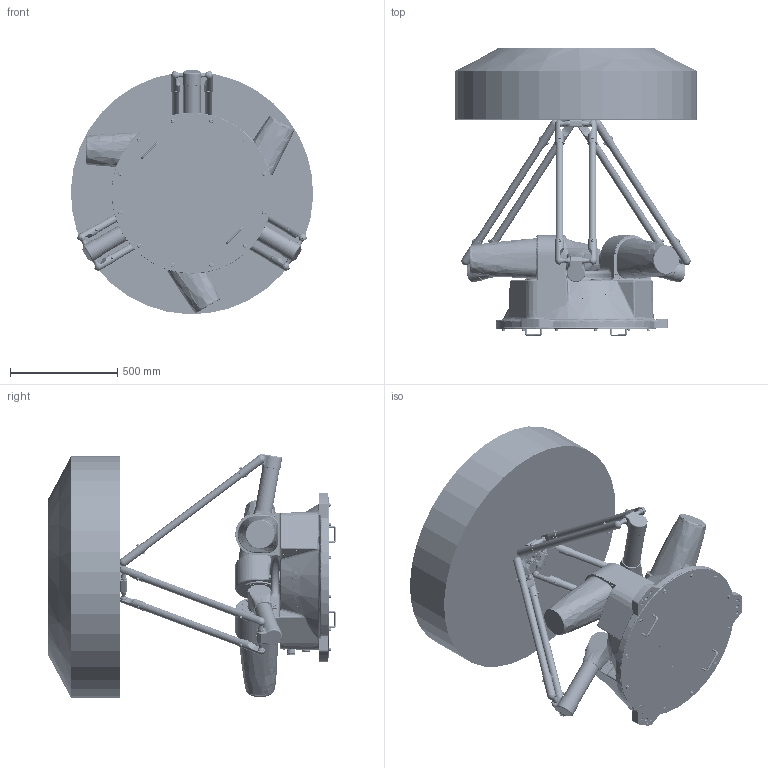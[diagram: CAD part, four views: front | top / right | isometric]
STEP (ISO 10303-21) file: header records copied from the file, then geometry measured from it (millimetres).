
FILE_DESCRIPTION (( 'STEP AP203' ), '1' );
FILE_NAME ('AP25X-1130-1543-T0-V2.0.0.STEP', '2024-10-12T08:00:12', ( '' ), ( '' ), 'SwSTEP 2.0', 'SolidWorks 2017', '' );
FILE_SCHEMA (( 'CONFIG_CONTROL_DESIGN' ));
Products named in the file (6): AP25X-1600-1543-T4-V1.0.0; AP25X-1130-1543-T0-V2.0.0; AP15X-2200-1543-T1-V1.0.1; AP25X-1130-1543-T2-V1.0.0; AP25X-1130-1543-T3-V1.0.0; AP25X-1130-1543-T9-V1.0.0
Assembly tree (12 placements, depth 2):
  AP25X-1130-1543-T0-V2.0.0
    AP15X-2200-1543-T1-V1.0.1
    AP25X-1130-1543-T2-V1.0.0  x3
    AP25X-1130-1543-T3-V1.0.0  x6
    AP25X-1130-1543-T9-V1.0.0
    AP25X-1600-1543-T4-V1.0.0
Bounding box: 1129.18 x 1346 x 1139.55 mm (x, y, z)
Volume: 301271011.7 mm3; surface area: 8088263.2 mm2
Topology: 2 solids, 324 shells, 5935 faces, 16119 edges, 10215 vertices
Faces by surface type: bspline 2169, cylinder 1534, plane 1184, cone 737, torus 237, sphere 74
Entity records: 269242 total; most frequent: CARTESIAN_POINT 164794, ORIENTED_EDGE 23845, DIRECTION 16728, EDGE_CURVE 12613, VERTEX_POINT 8241, AXIS2_PLACEMENT_3D 6181, EDGE_LOOP 5231, FACE_OUTER_BOUND 4751
